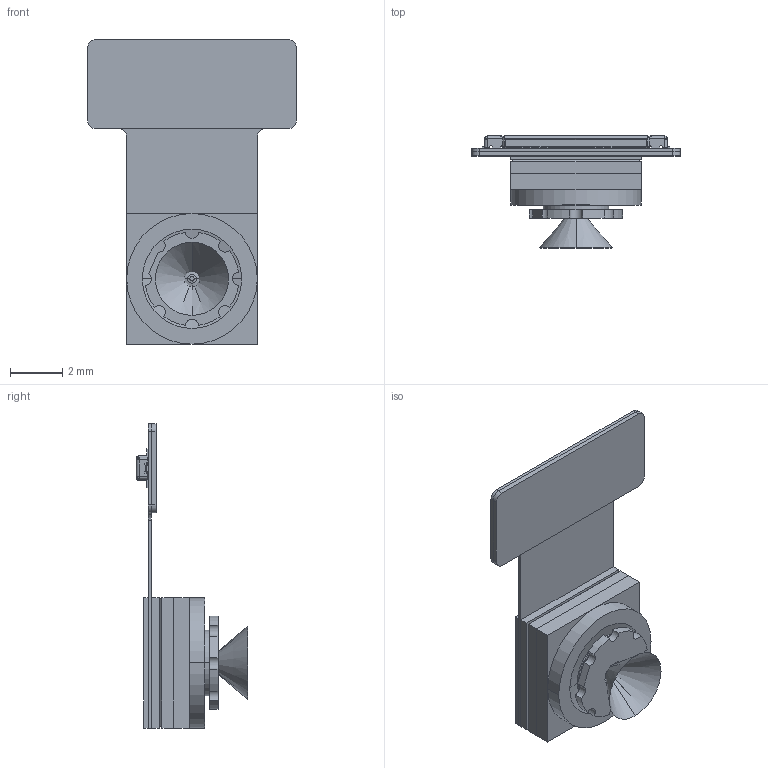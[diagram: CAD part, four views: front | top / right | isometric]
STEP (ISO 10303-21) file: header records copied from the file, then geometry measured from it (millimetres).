
FILE_DESCRIPTION((''),'2;1');
FILE_NAME('CV1222-D_ASM','2023-05-22T',('笢侅嫖萇'),(''),'PRO/ENGINEER BY PARAMETRIC TECHNOLOGY CORPORATION, 2013240','PRO/ENGINEER BY PARAMETRIC TECHNOLOGY CORPORATION, 2013240','');
FILE_SCHEMA(('AUTOMOTIVE_DESIGN_CC2 { 1 2 10303 214 -1 1 5 2 }'));
Products named in the file (14): FPC_1; STEEL-1; STEEL-2; FPC-ASM_ASM; PCB_AF0; SENSOR_AF0; C0201_1; ZJ-5X5-B_AF1; GLASS_AF0; VD55G0_ASM; PLCC55122802; BM28B0_6-30DP_1; 1L4A026A1-H; CV1222-D_ASM
Assembly tree (17 placements, depth 3):
  CV1222-D_ASM
    FPC-ASM_ASM
      FPC_1
      STEEL-1
      STEEL-2
    VD55G0_ASM
      PCB_AF0
      SENSOR_AF0
      C0201_1  x5
      ZJ-5X5-B_AF1
      GLASS_AF0
    PLCC55122802
    BM28B0_6-30DP_1
    1L4A026A1-H
Bounding box: 8 x 4.28 x 11.65 mm (x, y, z)
Volume: 61.3 mm3; surface area: 567.7 mm2
Topology: 15 solids, 46 shells, 1648 faces, 5447 edges, 5610 vertices
Faces by surface type: plane 1449, cylinder 139, cone 44, bspline 16
Entity records: 70152 total; most frequent: CARTESIAN_POINT 12167, DIRECTION 8812, ORIENTED_EDGE 7648, VECTOR 4832, LINE 4832, PRESENTATION_STYLE_ASSIGNMENT 4333, STYLED_ITEM 4247, CURVE_STYLE 4078
